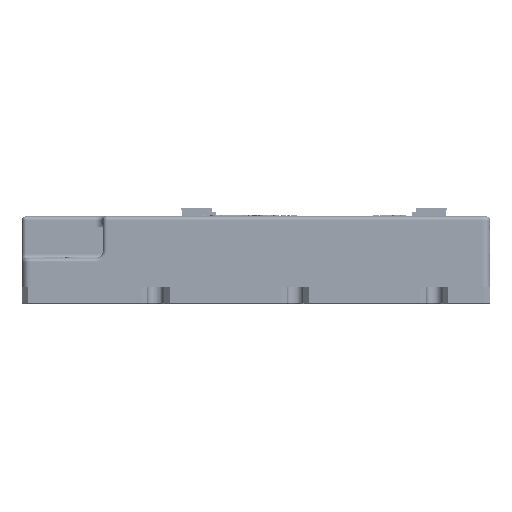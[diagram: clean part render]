
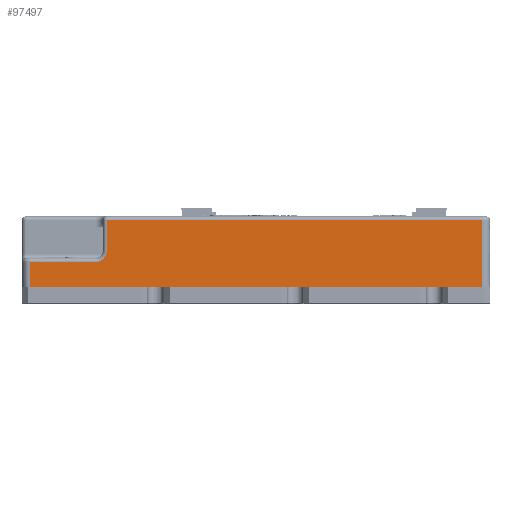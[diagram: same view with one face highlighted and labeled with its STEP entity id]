
A CAD part, front view. The second image highlights one B-rep face of the part: STEP entity #97497.
In plain terms, the highlighted planar face has unit normal (0, -1, 0).
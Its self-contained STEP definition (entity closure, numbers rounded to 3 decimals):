
#8427=PLANE('',#103437);
#14219=VECTOR('',#113547,1.);
#14582=VECTOR('',#114881,1.);
#14618=VECTOR('',#115133,1.);
#14619=VECTOR('',#115170,1.);
#14620=VECTOR('',#115173,1.);
#14621=VECTOR('',#115174,1.);
#23752=LINE('',#150416,#14219);
#24115=LINE('',#154363,#14582);
#24151=LINE('',#154993,#14618);
#24152=LINE('',#155043,#14619);
#24153=LINE('',#155047,#14620);
#24154=LINE('',#155049,#14621);
#34208=VERTEX_POINT('',#150403);
#34214=VERTEX_POINT('',#150415);
#34738=VERTEX_POINT('',#154362);
#34778=VERTEX_POINT('',#154992);
#34779=VERTEX_POINT('',#155044);
#34780=VERTEX_POINT('',#155046);
#34781=VERTEX_POINT('',#155048);
#39812=CIRCLE('',#103438,3.);
#46896=EDGE_CURVE('',#34208,#34214,#23752,.T.);
#47698=EDGE_CURVE('',#34738,#34214,#24115,.T.);
#47800=EDGE_CURVE('',#34778,#34738,#24151,.T.);
#47812=EDGE_CURVE('',#34779,#34778,#24152,.T.);
#47813=EDGE_CURVE('',#34780,#34779,#39812,.T.);
#47814=EDGE_CURVE('',#34781,#34780,#24153,.T.);
#47815=EDGE_CURVE('',#34208,#34781,#24154,.T.);
#68137=ORIENTED_EDGE('',*,*,#47800,.F.);
#68138=ORIENTED_EDGE('',*,*,#47812,.F.);
#68139=ORIENTED_EDGE('',*,*,#47813,.F.);
#68140=ORIENTED_EDGE('',*,*,#47814,.F.);
#68141=ORIENTED_EDGE('',*,*,#47815,.F.);
#68142=ORIENTED_EDGE('',*,*,#46896,.T.);
#68143=ORIENTED_EDGE('',*,*,#47698,.F.);
#86002=EDGE_LOOP('',(#68137,#68138,#68139,#68140,#68141,#68142,#68143));
#91909=FACE_BOUND('',#86002,.T.);
#97497=ADVANCED_FACE('',(#91909),#8427,.T.);
#103437=AXIS2_PLACEMENT_3D('',#155042,#115169,$);
#103438=AXIS2_PLACEMENT_3D('',#155045,#115171,#115172);
#113547=DIRECTION('',(1.,0.,0.));
#114881=DIRECTION('',(0.,0.,-1.));
#115133=DIRECTION('',(1.,0.,0.));
#115169=DIRECTION('',(0.,-1.,0.));
#115170=DIRECTION('',(0.,0.,1.));
#115171=DIRECTION('',(0.,-1.,0.));
#115172=DIRECTION('',(2.121,0.,-2.121));
#115173=DIRECTION('',(1.,0.,0.));
#115174=DIRECTION('',(0.,0.,1.));
#150403=CARTESIAN_POINT('',(-68.,-45.,0.));
#150415=CARTESIAN_POINT('',(48.,-45.,0.));
#150416=CARTESIAN_POINT('',(-70.,-45.,0.));
#154362=CARTESIAN_POINT('',(48.,-45.,17.));
#154363=CARTESIAN_POINT('',(48.,-45.,0.));
#154992=CARTESIAN_POINT('',(-48.25,-45.,17.));
#154993=CARTESIAN_POINT('',(-10.,-45.,17.));
#155042=CARTESIAN_POINT('',(-10.,-45.,0.));
#155043=CARTESIAN_POINT('',(-48.25,-45.,7.013));
#155044=CARTESIAN_POINT('',(-48.25,-45.,9.25));
#155045=CARTESIAN_POINT('',(-51.25,-45.,9.25));
#155046=CARTESIAN_POINT('',(-51.25,-45.,6.25));
#155047=CARTESIAN_POINT('',(-30.515,-45.,6.25));
#155048=CARTESIAN_POINT('',(-68.,-45.,6.25));
#155049=CARTESIAN_POINT('',(-68.,-45.,0.));
